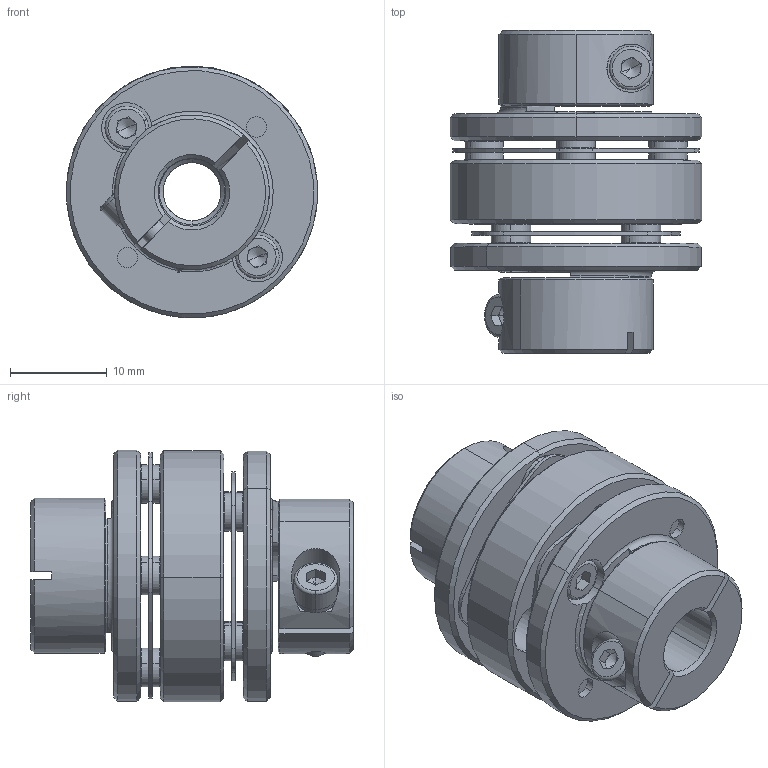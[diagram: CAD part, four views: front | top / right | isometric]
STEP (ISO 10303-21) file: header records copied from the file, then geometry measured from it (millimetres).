
FILE_DESCRIPTION (( 'STEP AP203' ), '1' );
FILE_NAME ('LE2-B-D26L35-6-7.STEP', '2021-11-01T05:47:07', ( '' ), ( '' ), 'SwSTEP 2.0', 'SolidWorks 2018', '' );
FILE_SCHEMA (( 'CONFIG_CONTROL_DESIGN' ));
Length unit declared in the file: millimetre
Products named in the file (1): LE2-B-D26L35-6-7
Bounding box: 26 x 33.4 x 26.06 mm (x, y, z)
Volume: 7752 mm3; surface area: 8349.1 mm2
Topology: 1 solids, 17 shells, 676 faces, 1573 edges, 945 vertices
Faces by surface type: cylinder 227, plane 220, cone 205, torus 24
Entity records: 19513 total; most frequent: DIRECTION 3652, CARTESIAN_POINT 3504, ORIENTED_EDGE 3106, EDGE_CURVE 1553, AXIS2_PLACEMENT_3D 1477, VERTEX_POINT 945, CIRCLE 800, EDGE_LOOP 784
